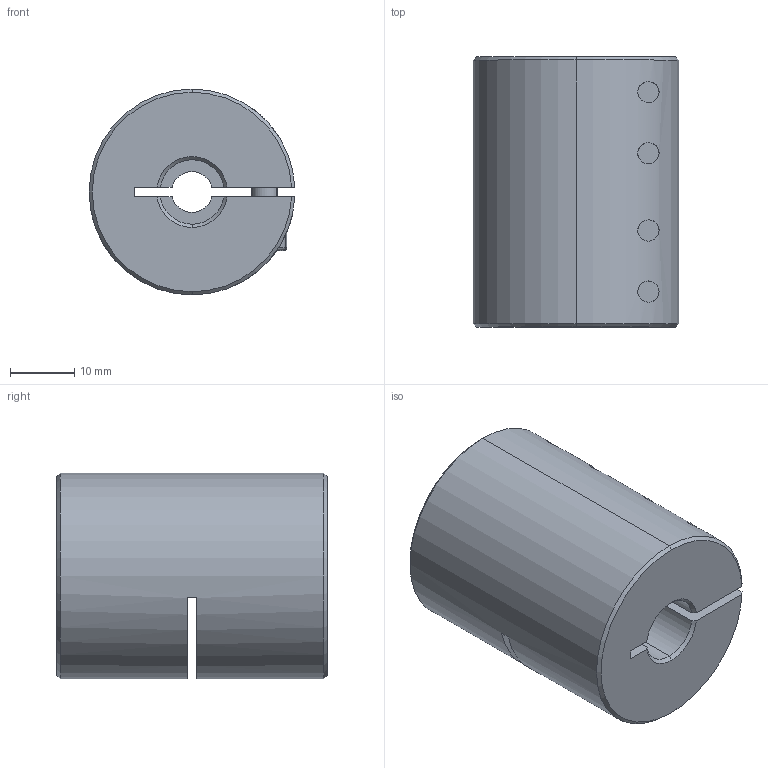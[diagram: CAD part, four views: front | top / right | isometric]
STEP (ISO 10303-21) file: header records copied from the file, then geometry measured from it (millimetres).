
FILE_DESCRIPTION (( 'STEP AP203' ), '1' );
FILE_NAME ('LL-B-D32L42-6.35-10.STEP', '2021-11-05T07:37:37', ( '' ), ( '' ), 'SwSTEP 2.0', 'SolidWorks 2018', '' );
FILE_SCHEMA (( 'CONFIG_CONTROL_DESIGN' ));
Length unit declared in the file: millimetre
Products named in the file (1): LL-B-D32L42-6.35-10
Bounding box: 31.98 x 42 x 32 mm (x, y, z)
Volume: 28936.3 mm3; surface area: 10308.9 mm2
Topology: 1 solids, 1 shells, 193 faces, 492 edges, 309 vertices
Faces by surface type: plane 88, cylinder 77, cone 20, torus 8
Entity records: 6376 total; most frequent: CARTESIAN_POINT 1559, DIRECTION 1037, ORIENTED_EDGE 968, EDGE_CURVE 484, AXIS2_PLACEMENT_3D 403, VERTEX_POINT 309, VECTOR 231, LINE 231
